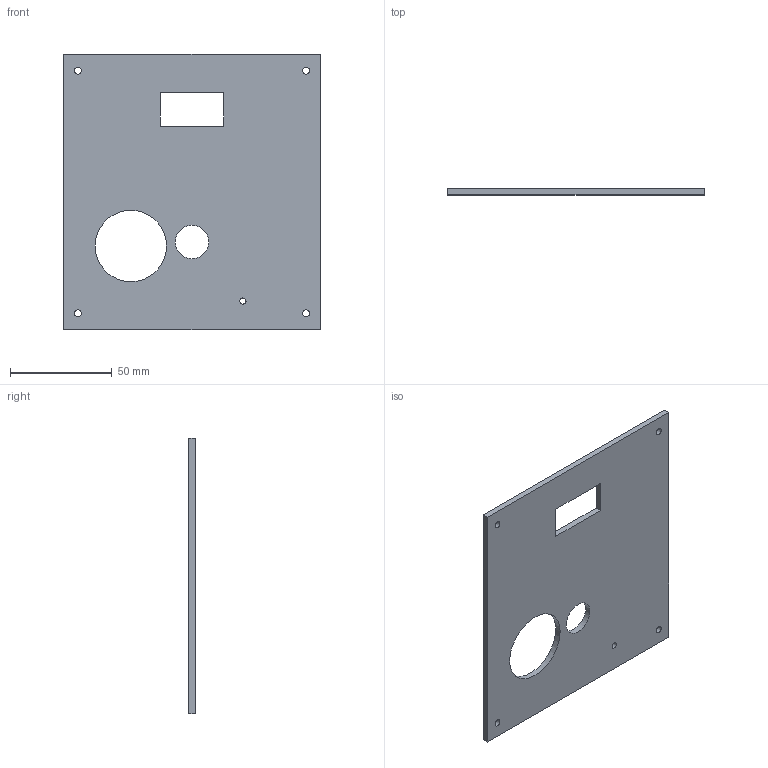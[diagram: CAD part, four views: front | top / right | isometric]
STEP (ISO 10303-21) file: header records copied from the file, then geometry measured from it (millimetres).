
FILE_DESCRIPTION(('FreeCAD Model'),'2;1');
FILE_NAME('Open CASCADE Shape Model','2026-11-06T11:24:16',('FreeCAD'),( 'FreeCAD'),'Open CASCADE STEP processor 7.8','FreeCAD','Unknown');
FILE_SCHEMA(('AUTOMOTIVE_DESIGN { 1 0 10303 214 1 1 1 1 }'));
Length unit declared in the file: millimetre
Products named in the file (1): Open CASCADE STEP translator 7.8 19
Bounding box: 126 x 3 x 135 mm (x, y, z)
Volume: 45863.9 mm3; surface area: 33066.6 mm2
Topology: 1 solids, 1 shells, 17 faces, 45 edges, 30 vertices
Faces by surface type: plane 10, cylinder 7
Full cylindrical faces by diameter (mm): 3 x1, 3.4 x4, 16.4 x1, 35 x1
Entity records: 575 total; most frequent: DIRECTION 95, CARTESIAN_POINT 93, ORIENTED_EDGE 90, EDGE_CURVE 45, FACE_BOUND 33, EDGE_LOOP 33, AXIS2_PLACEMENT_3D 32, LINE 31
